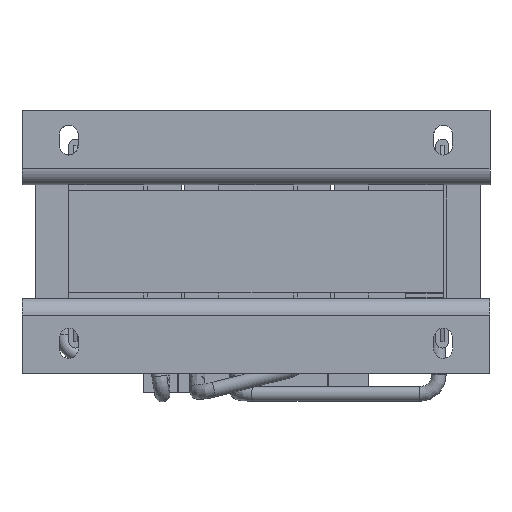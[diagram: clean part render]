
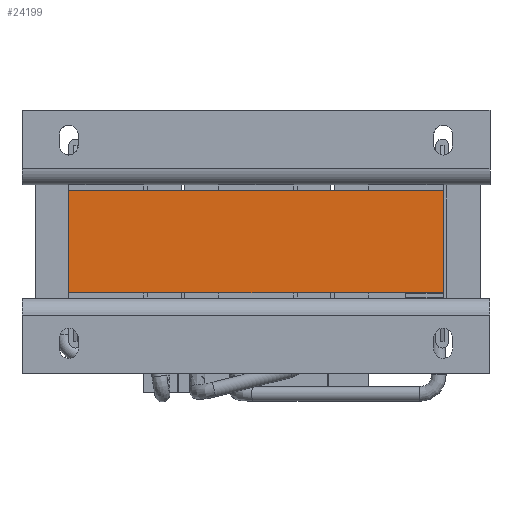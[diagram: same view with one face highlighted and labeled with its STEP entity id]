
A CAD part, front view. The second image highlights one B-rep face of the part: STEP entity #24199.
In plain terms, the highlighted planar face has unit normal (0, -1, 0).
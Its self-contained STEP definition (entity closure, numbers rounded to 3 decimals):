
#20520=CARTESIAN_POINT('',(50.,0.,27.3));
#20521=VERTEX_POINT('',#20520);
#20528=CARTESIAN_POINT('',(50.,0.,0.0));
#20529=VERTEX_POINT('',#20528);
#20530=CARTESIAN_POINT('',(50.,0.,0.0));
#20531=DIRECTION('',(0.0,0.0,1.0));
#20532=VECTOR('',#20531,27.3);
#20533=LINE('',#20530,#20532);
#20534=EDGE_CURVE('',#20529,#20521,#20533,.T.);
#24049=CARTESIAN_POINT('',(-50.,0.,27.3));
#24050=VERTEX_POINT('',#24049);
#24057=CARTESIAN_POINT('',(50.,0.,27.3));
#24058=DIRECTION('',(-1.0,0.0,0.0));
#24059=VECTOR('',#24058,100.0);
#24060=LINE('',#24057,#24059);
#24061=EDGE_CURVE('',#20521,#24050,#24060,.T.);
#24074=CARTESIAN_POINT('',(-50.,0.,0.0));
#24075=VERTEX_POINT('',#24074);
#24076=CARTESIAN_POINT('',(50.,0.,0.0));
#24077=DIRECTION('',(-1.0,0.0,0.0));
#24078=VECTOR('',#24077,100.0);
#24079=LINE('',#24076,#24078);
#24080=EDGE_CURVE('',#20529,#24075,#24079,.T.);
#24183=CARTESIAN_POINT('',(50.,0.,0.0));
#24184=DIRECTION('',(0.0,-1.0,0.0));
#24185=DIRECTION('',(0.0,0.0,-1.0));
#24186=AXIS2_PLACEMENT_3D('',#24183,#24184,#24185);
#24187=PLANE('',#24186);
#24188=ORIENTED_EDGE('',*,*,#24061,.T.);
#24189=CARTESIAN_POINT('',(-50.,0.,0.0));
#24190=DIRECTION('',(0.0,0.0,1.0));
#24191=VECTOR('',#24190,27.3);
#24192=LINE('',#24189,#24191);
#24193=EDGE_CURVE('',#24075,#24050,#24192,.T.);
#24194=ORIENTED_EDGE('',*,*,#24193,.F.);
#24195=ORIENTED_EDGE('',*,*,#24080,.F.);
#24196=ORIENTED_EDGE('',*,*,#20534,.T.);
#24197=EDGE_LOOP('',(#24188,#24194,#24195,#24196));
#24198=FACE_OUTER_BOUND('',#24197,.T.);
#24199=ADVANCED_FACE('',(#24198),#24187,.T.);
